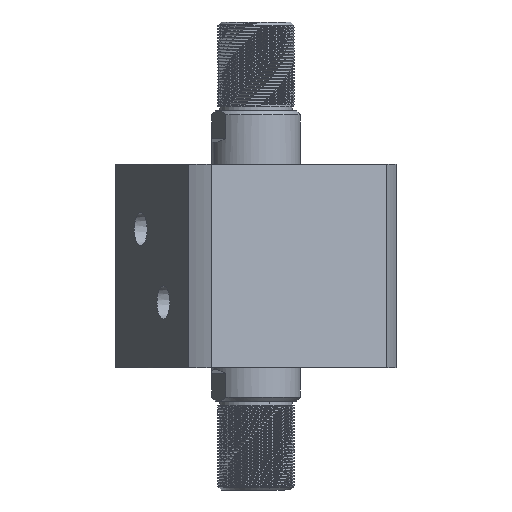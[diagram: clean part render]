
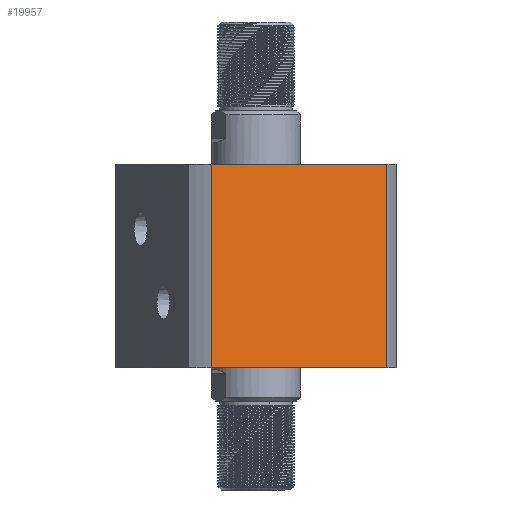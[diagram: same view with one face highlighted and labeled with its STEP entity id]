
A CAD part, front view. The second image highlights one B-rep face of the part: STEP entity #19957.
In plain terms, the highlighted planar face has unit normal (0.383, -0.924, 0) as drawn and (-1, 0, 0) by its records, which use the part's own axes.
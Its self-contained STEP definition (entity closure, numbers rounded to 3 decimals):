
#303 = CARTESIAN_POINT ( 'NONE',  ( -57., -47.971, 103. ) ) ;
#1727 = CARTESIAN_POINT ( 'NONE',  ( -57., -47.971, -197. ) ) ;
#2979 = EDGE_CURVE ( 'NONE', #14202, #15248, #5327, .T. ) ;
#4179 = LINE ( 'NONE', #9809, #24352 ) ;
#4317 = CARTESIAN_POINT ( 'NONE',  ( -57., 47.971, 0. ) ) ;
#4491 = DIRECTION ( 'NONE',  ( 1., 0., 0. ) ) ;
#5327 = LINE ( 'NONE', #1727, #15408 ) ;
#5790 = DIRECTION ( 'NONE',  ( 0., 0., -1. ) ) ;
#6783 = ORIENTED_EDGE ( 'NONE', *, *, #14645, .F. ) ;
#7160 = CARTESIAN_POINT ( 'NONE',  ( -57., -47.971, 0. ) ) ;
#7258 = DIRECTION ( 'NONE',  ( 0., -1., 0. ) ) ;
#8858 = LINE ( 'NONE', #15356, #24304 ) ;
#9012 = AXIS2_PLACEMENT_3D ( 'NONE', #16540, #4491, #18596 ) ;
#9809 = CARTESIAN_POINT ( 'NONE',  ( -57., 47.971, -197. ) ) ;
#10448 = PLANE ( 'NONE',  #9012 ) ;
#11850 = DIRECTION ( 'NONE',  ( 0., 0., 1. ) ) ;
#12772 = ORIENTED_EDGE ( 'NONE', *, *, #2979, .F. ) ;
#14202 = VERTEX_POINT ( 'NONE', #303 ) ;
#14645 = EDGE_CURVE ( 'NONE', #15398, #14202, #22512, .T. ) ;
#15248 = VERTEX_POINT ( 'NONE', #7160 ) ;
#15356 = CARTESIAN_POINT ( 'NONE',  ( -57., 57., 0. ) ) ;
#15398 = VERTEX_POINT ( 'NONE', #23710 ) ;
#15408 = VECTOR ( 'NONE', #5790, 1000. ) ;
#16272 = EDGE_CURVE ( 'NONE', #17444, #15398, #4179, .T. ) ;
#16540 = CARTESIAN_POINT ( 'NONE',  ( -57., 57., 103. ) ) ;
#17071 = EDGE_LOOP ( 'NONE', ( #24229, #23616, #12772, #6783 ) ) ;
#17160 = VECTOR ( 'NONE', #21719, 1000. ) ;
#17444 = VERTEX_POINT ( 'NONE', #4317 ) ;
#18596 = DIRECTION ( 'NONE',  ( 0., 1., 0. ) ) ;
#19287 = FACE_OUTER_BOUND ( 'NONE', #17071, .T. ) ;
#19373 = EDGE_CURVE ( 'NONE', #17444, #15248, #8858, .T. ) ;
#19957 = ADVANCED_FACE ( 'NONE', ( #19287 ), #10448, .F. ) ;
#21719 = DIRECTION ( 'NONE',  ( 0., -1., 0. ) ) ;
#22512 = LINE ( 'NONE', #23741, #17160 ) ;
#23616 = ORIENTED_EDGE ( 'NONE', *, *, #19373, .T. ) ;
#23710 = CARTESIAN_POINT ( 'NONE',  ( -57., 47.971, 103. ) ) ;
#23741 = CARTESIAN_POINT ( 'NONE',  ( -57., 57., 103. ) ) ;
#24229 = ORIENTED_EDGE ( 'NONE', *, *, #16272, .F. ) ;
#24304 = VECTOR ( 'NONE', #7258, 1000. ) ;
#24352 = VECTOR ( 'NONE', #11850, 1000. ) ;
